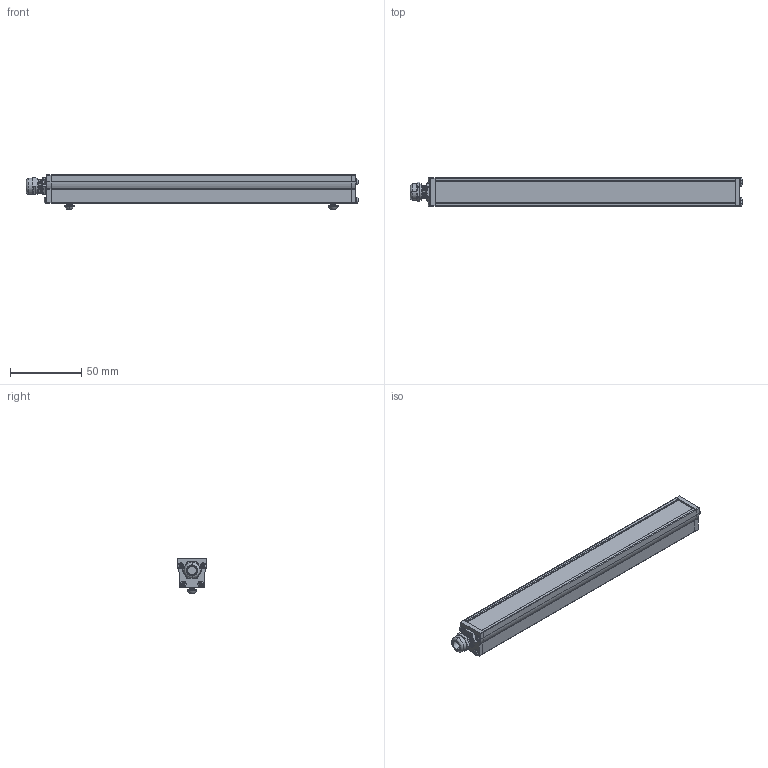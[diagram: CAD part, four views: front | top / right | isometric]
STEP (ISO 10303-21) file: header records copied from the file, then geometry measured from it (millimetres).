
FILE_DESCRIPTION (( 'STEP AP214' ), '1' );
FILE_NAME ('AL126 _NONSEALED__AL12608.stp', '2021-04-29T14:24:58', ( '' ), ( '' ), 'SwSTEP 2.0', 'SolidWorks 2018', '' );
FILE_SCHEMA (( 'AUTOMOTIVE_DESIGN' ));
Length unit declared in the file: inch
Products named in the file (15): 093469_093469; 093474_093474; 090877-XX_090877-08; 090876; AL126 _NONSEALED__AL12608; 10mm Label (116 126)_Default<As Machined>; 10mm Swish_Default<As Machined>; 091052 (116 126); HN-M4_90592A016; 090875; BH-M4x6; 091064_Model_Dome Fittings_Thread Type and Size(Dome)_M10 x 1.5_Hazardous Location-Explosive Proof(ATEX and EExe Versions)_No_; 10mm Advanced illumination; 10mm Ai; 090889-XX_090889-08
Assembly tree (24 placements, depth 3):
  AL126 _NONSEALED__AL12608
    090889-XX_090889-08
    090877-XX_090877-08
    090875
    090876
    093474_093474  x8
    093469_093469  x2
    091064_Model_Dome Fittings_Thread Type and Size(Dome)_M10 x 1.5_Hazardous Location-Explosive Proof(ATEX and EExe Versions)_No_
    HN-M4_90592A016  x2
    BH-M4x6  x2
    091052 (116 126)
      10mm Label (116 126)_Default<As Machined>
      10mm Ai
      10mm Swish_Default<As Machined>
      10mm Advanced illumination
Bounding box: 232.33 x 20.02 x 24.1 mm (x, y, z)
Volume: 31711.5 mm3; surface area: 46005.5 mm2
Topology: 48 solids, 48 shells, 1877 faces, 4840 edges, 3010 vertices
Faces by surface type: cylinder 934, plane 401, cone 362, bspline 120, torus 60
Entity records: 30293 total; most frequent: CARTESIAN_POINT 10456, ORIENTED_EDGE 4076, DIRECTION 3580, EDGE_CURVE 2038, VERTEX_POINT 1298, AXIS2_PLACEMENT_3D 1276, VECTOR 1028, LINE 1028
